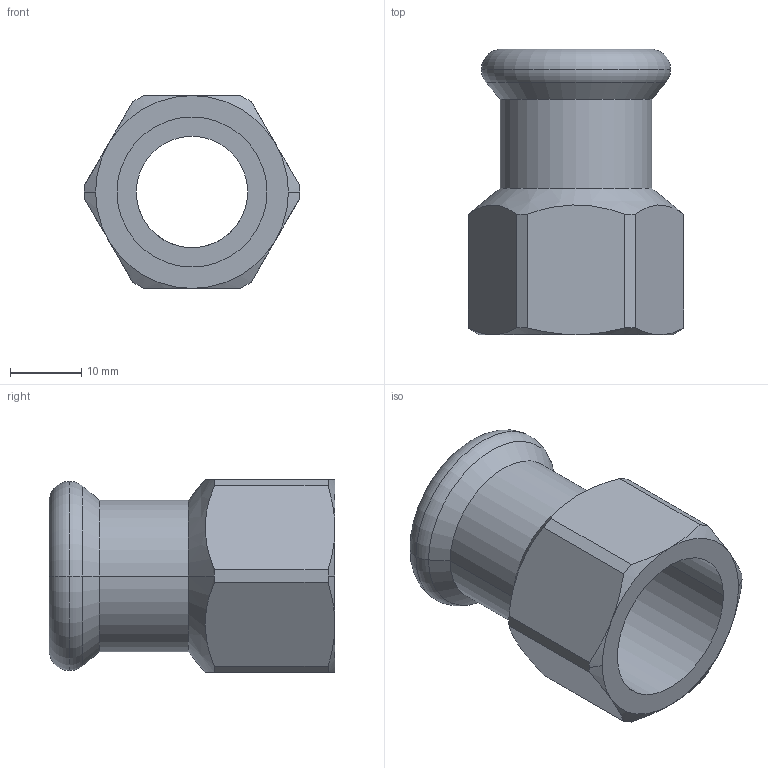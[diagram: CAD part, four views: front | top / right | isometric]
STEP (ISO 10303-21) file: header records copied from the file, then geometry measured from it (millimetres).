
FILE_DESCRIPTION(('CoCreate Modeling STEP Export'),'2;1');
FILE_NAME('C1402 18xRp1-2.stp','2014-11-06T16:57:25',(''),(''),'CoCreate Modeling STEP processor for AP214 (Solid Model)','CoCreate Modeling 17.00A 17-Jun-2010 (C) Parametric Technology GmbH','');
FILE_SCHEMA(('AUTOMOTIVE_DESIGN { 1 0 10303 214 1 1 1 1 }'));
Length unit declared in the file: millimetre
Products named in the file (2): C1402_18xRp½
Assembly tree (1 placements, depth 2):
  C1402_18xRp½
    C1402_18xRp½
Bounding box: 30.2 x 40 x 27 mm (x, y, z)
Volume: 8389.7 mm3; surface area: 6532.4 mm2
Topology: 1 solids, 1 shells, 43 faces, 102 edges, 64 vertices
Faces by surface type: plane 17, cone 12, cylinder 10, torus 4
Entity records: 2224 total; most frequent: CARTESIAN_POINT 1336, ORIENTED_EDGE 204, DIRECTION 120, EDGE_CURVE 102, VERTEX_POINT 64, EDGE_LOOP 48, AXIS2_PLACEMENT_3D 46, FACE_OUTER_BOUND 43
